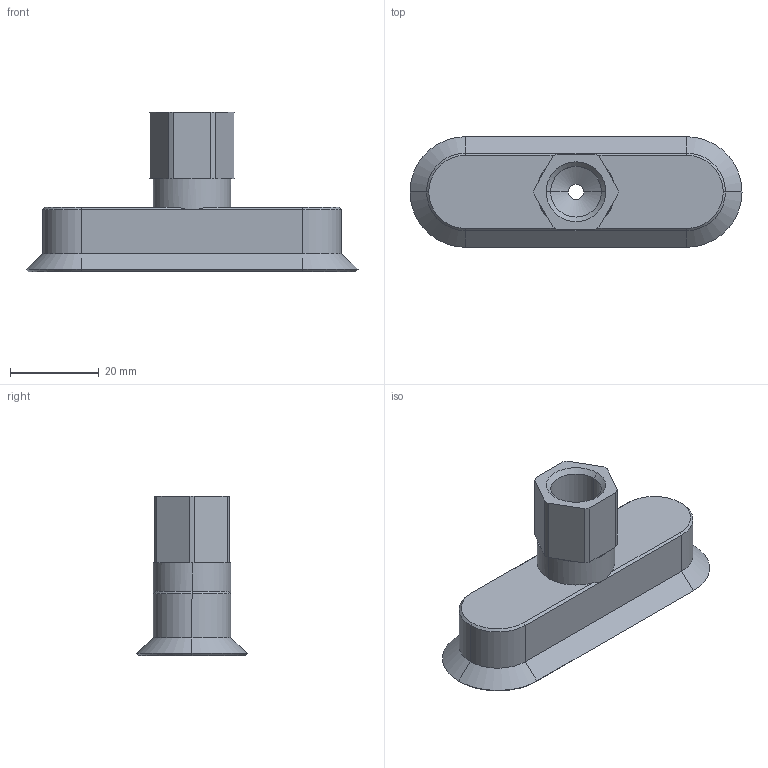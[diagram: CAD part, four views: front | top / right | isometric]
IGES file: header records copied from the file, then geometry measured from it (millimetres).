
Start section: 3D InterOp IGES (v. 2018 1.0.2), Spatial Corp. Copyright (c) 1999-2017.
Global section: file name: schmalz_10_01_05_00093_2godl1cv3iey4mc5139r26789.igs; native system: Spatial Corp.; preprocessor: 3D InterOp ACIS/IGES; author: TraceParts; organization: TraceParts S.A.; date: 20181120.071445; units: millimetre
Bounding box: 75 x 25 x 36 mm (x, y, z)
Surface area: 7674.6 mm2 (no closed solid volume)
Topology: 0 solids, 0 shells, 97 faces, 440 edges, 440 vertices
Faces by surface type: revolution 50, extrusion 47
